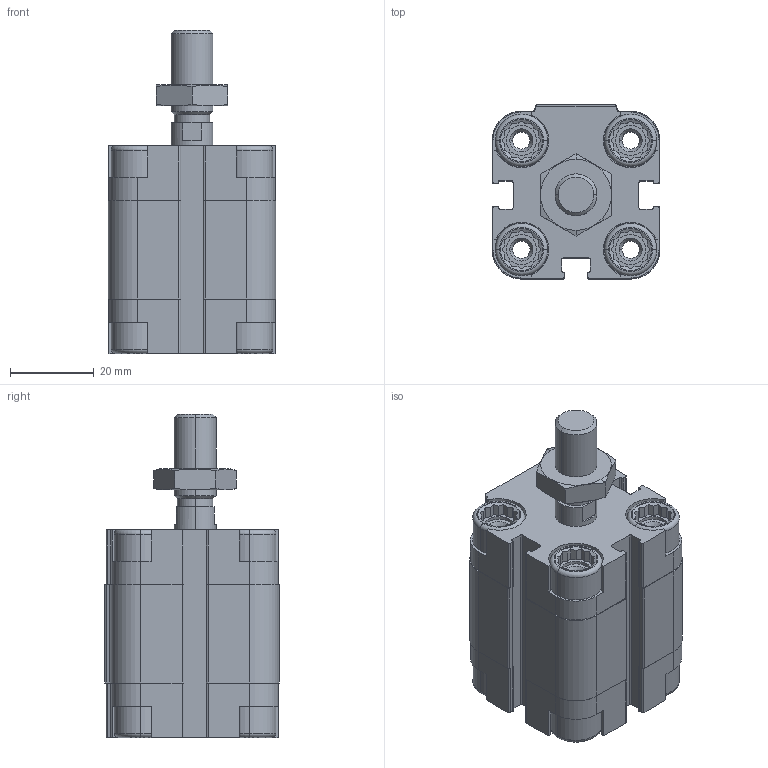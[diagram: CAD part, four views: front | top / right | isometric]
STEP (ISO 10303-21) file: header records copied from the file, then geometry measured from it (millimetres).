
FILE_DESCRIPTION (( 'STEP AP203' ), '1' );
FILE_NAME ('CDVU25-10.STEP', '2020-03-19T11:31:09', ( '' ), ( '' ), 'SwSTEP 2.0', 'SolidWorks 2019', '' );
FILE_SCHEMA (( 'CONFIG_CONTROL_DESIGN' ));
Length unit declared in the file: millimetre
Products named in the file (1): CDVU25-10
Bounding box: 40 x 41.5 x 77 mm (x, y, z)
Volume: 64670.3 mm3; surface area: 25456.8 mm2
Topology: 3 solids, 3 shells, 601 faces, 1578 edges, 1018 vertices
Faces by surface type: plane 359, cylinder 172, cone 54, torus 16
Entity records: 18929 total; most frequent: CARTESIAN_POINT 4054, ORIENTED_EDGE 3148, DIRECTION 3002, EDGE_CURVE 1574, AXIS2_PLACEMENT_3D 1030, VERTEX_POINT 1018, VECTOR 942, LINE 942
